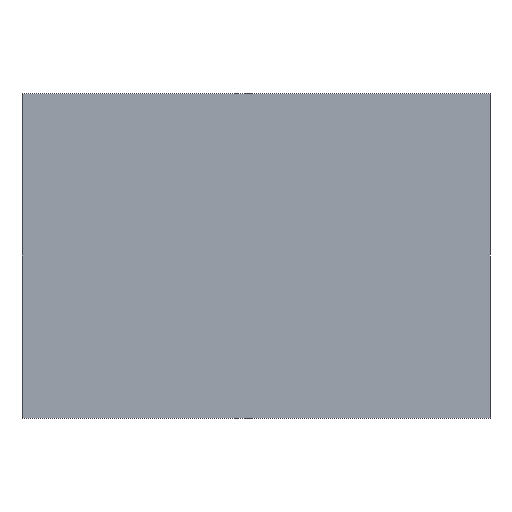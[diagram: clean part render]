
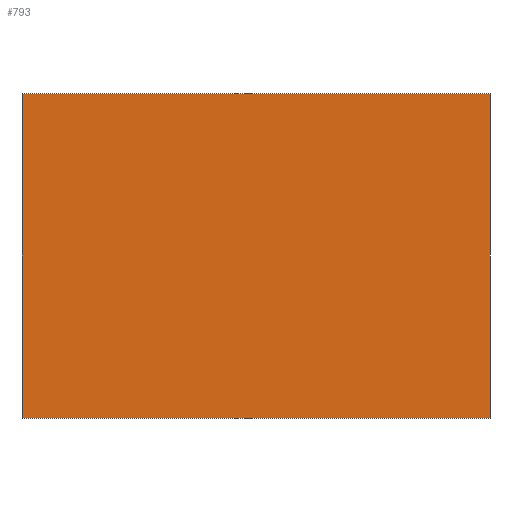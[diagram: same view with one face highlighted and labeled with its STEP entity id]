
A CAD part, left-side view. The second image highlights one B-rep face of the part: STEP entity #793.
In plain terms, the highlighted planar face has unit normal (-1, 0, 0).
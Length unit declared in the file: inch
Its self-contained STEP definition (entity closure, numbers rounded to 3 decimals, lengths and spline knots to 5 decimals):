
#2=DIRECTION('',(0.,-1.,0.));
#3=VECTOR('',#2,30.228);
#4=CARTESIAN_POINT('',(-0.375,15.114,10.4825));
#5=LINE('',#4,#3);
#6=DIRECTION('',(0.,0.,-1.));
#7=VECTOR('',#6,20.965);
#8=CARTESIAN_POINT('',(-0.375,-15.114,10.4825));
#9=LINE('',#8,#7);
#10=DIRECTION('',(0.,1.,0.));
#11=VECTOR('',#10,30.228);
#12=CARTESIAN_POINT('',(-0.375,-15.114,-10.4825));
#13=LINE('',#12,#11);
#14=DIRECTION('',(0.,0.,1.));
#15=VECTOR('',#14,20.965);
#16=CARTESIAN_POINT('',(-0.375,15.114,-10.4825));
#17=LINE('',#16,#15);
#602=CARTESIAN_POINT('',(-0.375,15.114,10.4825));
#603=CARTESIAN_POINT('',(-0.375,-15.114,10.4825));
#604=VERTEX_POINT('',#602);
#605=VERTEX_POINT('',#603);
#606=CARTESIAN_POINT('',(-0.375,-15.114,-10.4825));
#607=VERTEX_POINT('',#606);
#608=CARTESIAN_POINT('',(-0.375,15.114,-10.4825));
#609=VERTEX_POINT('',#608);
#778=CARTESIAN_POINT('',(-0.375,0.,0.));
#779=DIRECTION('',(1.,0.,0.));
#780=DIRECTION('',(0.,-1.,0.));
#781=AXIS2_PLACEMENT_3D('',#778,#779,#780);
#782=PLANE('',#781);
#784=ORIENTED_EDGE('',*,*,#783,.T.);
#786=ORIENTED_EDGE('',*,*,#785,.T.);
#788=ORIENTED_EDGE('',*,*,#787,.T.);
#790=ORIENTED_EDGE('',*,*,#789,.T.);
#791=EDGE_LOOP('',(#784,#786,#788,#790));
#792=FACE_OUTER_BOUND('',#791,.F.);
#793=ADVANCED_FACE('',(#792),#782,.F.);
#783=EDGE_CURVE('',#604,#605,#5,.T.);
#785=EDGE_CURVE('',#605,#607,#9,.T.);
#787=EDGE_CURVE('',#607,#609,#13,.T.);
#789=EDGE_CURVE('',#609,#604,#17,.T.);
